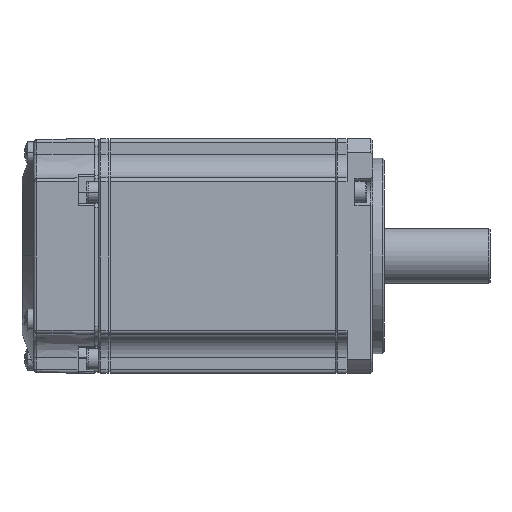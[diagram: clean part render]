
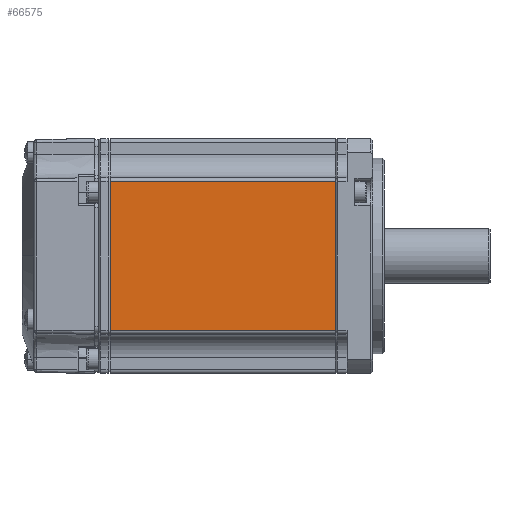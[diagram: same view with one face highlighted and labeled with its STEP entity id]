
A CAD part, front view. The second image highlights one B-rep face of the part: STEP entity #66575.
In plain terms, the highlighted planar face has unit normal (0, -1, 0).
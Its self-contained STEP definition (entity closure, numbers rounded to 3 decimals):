
#2892 = DIRECTION ( 'NONE',  ( -1., 0., 0. ) ) ;
#4275 = EDGE_CURVE ( 'NONE', #9409, #45574, #52721, .T. ) ;
#9409 = VERTEX_POINT ( 'NONE', #95600 ) ;
#10679 = DIRECTION ( 'NONE',  ( 0., 0., -1. ) ) ;
#11350 = DIRECTION ( 'NONE',  ( 1., 0., 0. ) ) ;
#26590 = ORIENTED_EDGE ( 'NONE', *, *, #76716, .F. ) ;
#30133 = EDGE_LOOP ( 'NONE', ( #85112, #26590, #46230, #93383 ) ) ;
#41765 = VERTEX_POINT ( 'NONE', #99337 ) ;
#44538 = CARTESIAN_POINT ( 'NONE',  ( -318.637, -626.098, -605.587 ) ) ;
#45574 = VERTEX_POINT ( 'NONE', #88034 ) ;
#45813 = VECTOR ( 'NONE', #2892, 1000. ) ;
#46230 = ORIENTED_EDGE ( 'NONE', *, *, #82110, .F. ) ;
#51219 = CARTESIAN_POINT ( 'NONE',  ( -318.637, -626.098, -643.587 ) ) ;
#52721 = LINE ( 'NONE', #44538, #45813 ) ;
#57730 = CARTESIAN_POINT ( 'NONE',  ( -318.637, -626.098, -605.587 ) ) ;
#58314 = CARTESIAN_POINT ( 'NONE',  ( -376.137, -626.098, -605.587 ) ) ;
#59892 = LINE ( 'NONE', #57730, #76310 ) ;
#60075 = DIRECTION ( 'NONE',  ( 0., 1., 0. ) ) ;
#60454 = LINE ( 'NONE', #58314, #66354 ) ;
#66354 = VECTOR ( 'NONE', #10679, 1000. ) ;
#66575 = ADVANCED_FACE ( 'NONE', ( #75413 ), #84146, .F. ) ;
#68299 = VECTOR ( 'NONE', #98360, 1000. ) ;
#73829 = CARTESIAN_POINT ( 'NONE',  ( -318.637, -626.098, -643.587 ) ) ;
#75413 = FACE_OUTER_BOUND ( 'NONE', #30133, .T. ) ;
#76134 = VERTEX_POINT ( 'NONE', #51219 ) ;
#76310 = VECTOR ( 'NONE', #91069, 1000. ) ;
#76716 = EDGE_CURVE ( 'NONE', #76134, #41765, #98912, .T. ) ;
#82110 = EDGE_CURVE ( 'NONE', #9409, #76134, #59892, .T. ) ;
#84146 = PLANE ( 'NONE',  #105423 ) ;
#84662 = CARTESIAN_POINT ( 'NONE',  ( -318.637, -626.098, -605.587 ) ) ;
#85112 = ORIENTED_EDGE ( 'NONE', *, *, #92122, .T. ) ;
#88034 = CARTESIAN_POINT ( 'NONE',  ( -376.137, -626.098, -605.587 ) ) ;
#91069 = DIRECTION ( 'NONE',  ( 0., 0., -1. ) ) ;
#92122 = EDGE_CURVE ( 'NONE', #45574, #41765, #60454, .T. ) ;
#93383 = ORIENTED_EDGE ( 'NONE', *, *, #4275, .T. ) ;
#95600 = CARTESIAN_POINT ( 'NONE',  ( -318.637, -626.098, -605.587 ) ) ;
#98360 = DIRECTION ( 'NONE',  ( -1., 0., 0. ) ) ;
#98912 = LINE ( 'NONE', #73829, #68299 ) ;
#99337 = CARTESIAN_POINT ( 'NONE',  ( -376.137, -626.098, -643.587 ) ) ;
#105423 = AXIS2_PLACEMENT_3D ( 'NONE', #84662, #60075, #11350 ) ;
